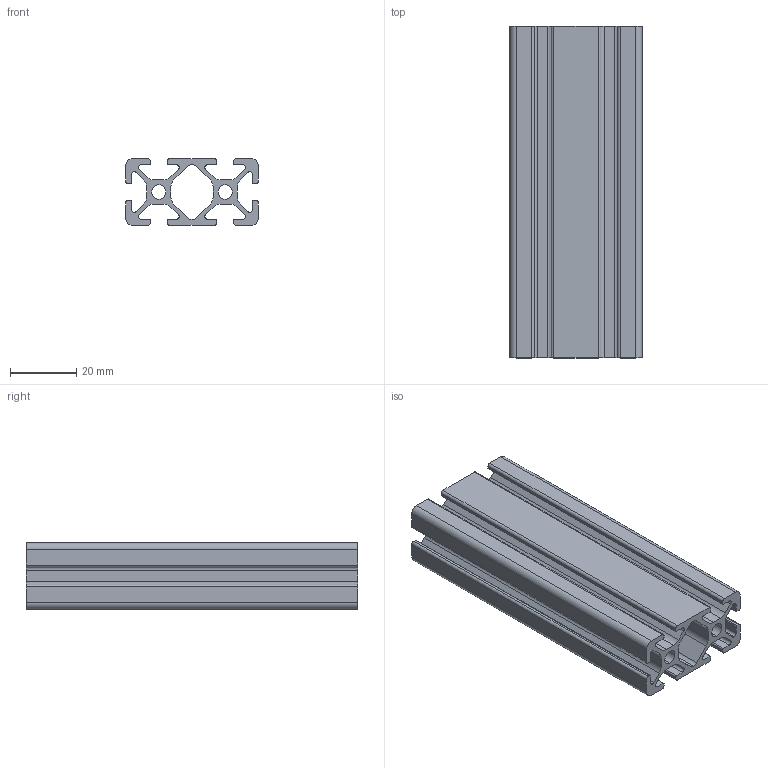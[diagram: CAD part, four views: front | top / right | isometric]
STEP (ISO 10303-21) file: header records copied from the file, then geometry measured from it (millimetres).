
FILE_DESCRIPTION (( 'STEP AP203' ), '1' );
FILE_NAME ('0105P4020.STEP', '2024-02-27T13:27:23', ( 'Windows-Benutzer' ), ( '' ), 'SwSTEP 2.0', 'SolidWorks 2023', '' );
FILE_SCHEMA (( 'CONFIG_CONTROL_DESIGN' ));
Length unit declared in the file: millimetre
Products named in the file (1): 0105P4020
Bounding box: 40 x 100 x 20 mm (x, y, z)
Volume: 30275.9 mm3; surface area: 32170.1 mm2
Topology: 1 solids, 1 shells, 125 faces, 369 edges, 246 vertices
Faces by surface type: cylinder 65, plane 60
Entity records: 4302 total; most frequent: DIRECTION 751, CARTESIAN_POINT 741, ORIENTED_EDGE 738, EDGE_CURVE 369, AXIS2_PLACEMENT_3D 256, VERTEX_POINT 246, LINE 239, VECTOR 239
